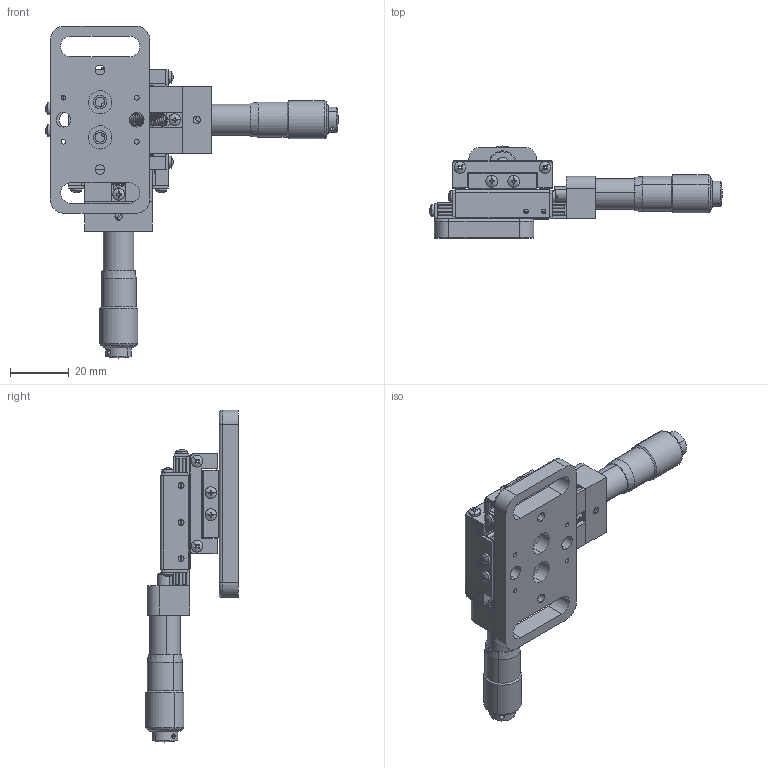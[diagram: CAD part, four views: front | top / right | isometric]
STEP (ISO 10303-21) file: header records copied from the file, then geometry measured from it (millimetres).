
FILE_DESCRIPTION (( 'STEP AP203' ), '1' );
FILE_NAME ('7SAM201謗峎す痄怢.STEP', '2018-03-12T03:32:06', ( '' ), ( '' ), 'SwSTEP 2.0', 'SolidWorks 2014', '' );
FILE_SCHEMA (( 'CONFIG_CONTROL_DESIGN' ));
Length unit declared in the file: millimetre
Products named in the file (1): 7SAM201謗峎す痄怢
Bounding box: 99.9 x 31.5 x 113.32 mm (x, y, z)
Surface area: 30253.7 mm2 (no closed solid volume)
Topology: 0 solids, 77 shells, 663 faces, 2244 edges, 1605 vertices
Faces by surface type: plane 315, cylinder 252, sphere 34, torus 31, cone 27, bspline 4
Entity records: 37781 total; most frequent: CARTESIAN_POINT 18161, DIRECTION 4336, ORIENTED_EDGE 3530, EDGE_CURVE 2238, AXIS2_PLACEMENT_3D 1672, VERTEX_POINT 1605, CIRCLE 1012, LINE 992
